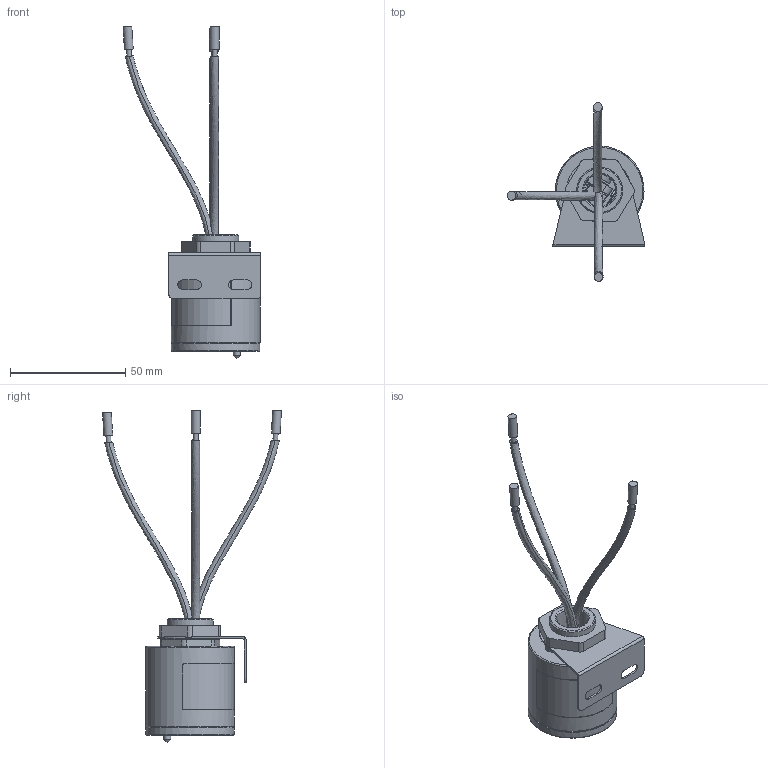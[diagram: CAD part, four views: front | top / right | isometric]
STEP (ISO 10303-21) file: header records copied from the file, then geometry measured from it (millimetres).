
FILE_DESCRIPTION(/* description */ ('Unknown'),/* implementation_level */ '2;1');
FILE_NAME(/* name */ 'SD05C 10C',/* time_stamp */ '2023-04-19T16:27:23+08:00',/* author */ ('Unknown'),/* organization */ ('Unknown'),/* preprocessor_version */ 'ST-DEVELOPER v16.7',/* originating_system */ 'Solid Edge',/* authorisation */ 'Unknown');
FILE_SCHEMA (('AUTOMOTIVE_DESIGN {1 0 10303 214 3 1 1}'));
Length unit declared in the file: millimetre
Products named in the file (1): sd10c277am
Bounding box: 59.91 x 77.7 x 144.17 mm (x, y, z)
Volume: 23364.2 mm3; surface area: 30777.5 mm2
Topology: 4 solids, 10 shells, 961 faces, 2585 edges, 1662 vertices
Faces by surface type: plane 505, cylinder 372, torus 36, sphere 32, bspline 12, cone 4
Full cylindrical faces by diameter (mm): 0.35 x8, 0.5 x2, 0.65 x2, 0.8 x6, 0.813 x4, 0.95 x4, 1.05 x10, 1.13 x2, 1.2 x5, 2.1 x4, 2.6 x5, 2.7 x3, 3 x2, 3.1 x2, 3.12 x2, 3.8 x3, 12 x1, 14 x1, 20 x2, 33.7 x1, 37.3 x1, 38.5 x2
Entity records: 36040 total; most frequent: CARTESIAN_POINT 6084, DIRECTION 5041, ORIENTED_EDGE 4684, EDGE_CURVE 2342, AXIS2_PLACEMENT_3D 1849, VERTEX_POINT 1559, LINE 1343, VECTOR 1343
